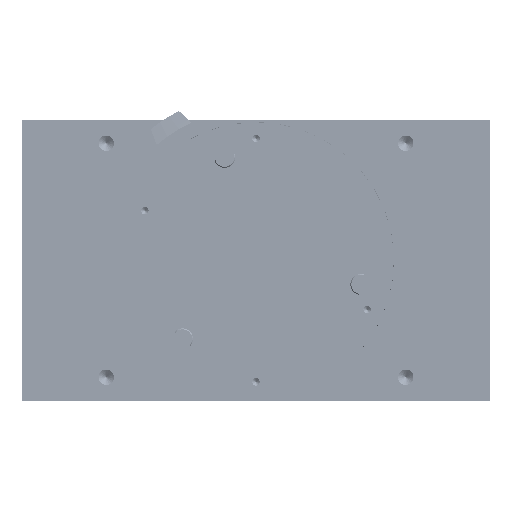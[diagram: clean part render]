
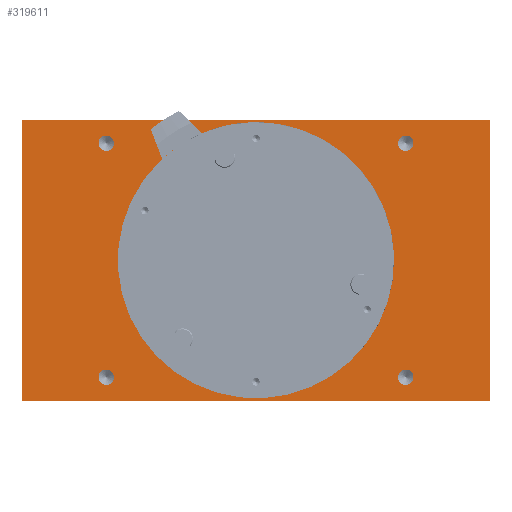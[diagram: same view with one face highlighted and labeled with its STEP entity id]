
A CAD part, left-side view. The second image highlights one B-rep face of the part: STEP entity #319611.
In plain terms, the highlighted planar face has unit normal (-1, 0, 0).
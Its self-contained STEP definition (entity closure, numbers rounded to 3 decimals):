
#40367 = CARTESIAN_POINT ( 'NONE',  ( 0., -50., 30. ) ) ;
#47087 = VERTEX_POINT ( 'NONE', #595805 ) ;
#48048 = VERTEX_POINT ( 'NONE', #113655 ) ;
#55258 = DIRECTION ( 'NONE',  ( 0., 0., -1. ) ) ;
#66231 = LINE ( 'NONE', #174885, #182446 ) ;
#70064 = AXIS2_PLACEMENT_3D ( 'NONE', #301113, #792182, #480158 ) ;
#71138 = DIRECTION ( 'NONE',  ( 0., 1., 0. ) ) ;
#80161 = VERTEX_POINT ( 'NONE', #40367 ) ;
#80585 = LINE ( 'NONE', #689943, #294056 ) ;
#85956 = CARTESIAN_POINT ( 'NONE',  ( 0., -32., -23.35 ) ) ;
#106033 = DIRECTION ( 'NONE',  ( 0., 0., 1. ) ) ;
#113655 = CARTESIAN_POINT ( 'NONE',  ( 0., 50., -30. ) ) ;
#118862 = VERTEX_POINT ( 'NONE', #159227 ) ;
#135031 = FACE_OUTER_BOUND ( 'NONE', #398976, .T. ) ;
#142356 = CARTESIAN_POINT ( 'NONE',  ( 0., 32., -25. ) ) ;
#144841 = EDGE_LOOP ( 'NONE', ( #680608 ) ) ;
#147715 = EDGE_CURVE ( 'NONE', #48048, #619695, #250286, .T. ) ;
#151471 = EDGE_CURVE ( 'NONE', #514553, #514553, #464996, .T. ) ;
#159119 = DIRECTION ( 'NONE',  ( 0., 0., -1. ) ) ;
#159227 = CARTESIAN_POINT ( 'NONE',  ( 0., -50., -30. ) ) ;
#174885 = CARTESIAN_POINT ( 'NONE',  ( 0., -50., 30. ) ) ;
#182446 = VECTOR ( 'NONE', #55258, 1000. ) ;
#189398 = EDGE_CURVE ( 'NONE', #369185, #369185, #259532, .T. ) ;
#204710 = DIRECTION ( 'NONE',  ( 0., 0., 1. ) ) ;
#204774 = DIRECTION ( 'NONE',  ( 0., 0., 1. ) ) ;
#207392 = DIRECTION ( 'NONE',  ( -1., 0., 0. ) ) ;
#213488 = PLANE ( 'NONE',  #527280 ) ;
#219536 = ORIENTED_EDGE ( 'NONE', *, *, #147715, .F. ) ;
#225697 = ORIENTED_EDGE ( 'NONE', *, *, #354381, .F. ) ;
#226284 = EDGE_CURVE ( 'NONE', #118862, #48048, #80585, .T. ) ;
#243290 = ORIENTED_EDGE ( 'NONE', *, *, #477249, .F. ) ;
#250286 = LINE ( 'NONE', #653529, #463580 ) ;
#259532 = CIRCLE ( 'NONE', #773552, 27.8 ) ;
#284475 = ORIENTED_EDGE ( 'NONE', *, *, #391379, .F. ) ;
#286296 = LINE ( 'NONE', #570221, #470691 ) ;
#291925 = EDGE_LOOP ( 'NONE', ( #243290 ) ) ;
#294056 = VECTOR ( 'NONE', #71138, 1000. ) ;
#299138 = EDGE_LOOP ( 'NONE', ( #784147 ) ) ;
#300264 = FACE_BOUND ( 'NONE', #718171, .T. ) ;
#301113 = CARTESIAN_POINT ( 'NONE',  ( 0., 32., 25. ) ) ;
#319611 = ADVANCED_FACE ( 'NONE', ( #630182, #300264, #775840, #610800, #445653, #135031 ), #213488, .F. ) ;
#342786 = EDGE_CURVE ( 'NONE', #621198, #621198, #677694, .T. ) ;
#354381 = EDGE_CURVE ( 'NONE', #80161, #118862, #66231, .T. ) ;
#358079 = CARTESIAN_POINT ( 'NONE',  ( 0., -32., 25. ) ) ;
#369185 = VERTEX_POINT ( 'NONE', #426455 ) ;
#391379 = EDGE_CURVE ( 'NONE', #619695, #80161, #286296, .T. ) ;
#398976 = EDGE_LOOP ( 'NONE', ( #284475, #219536, #736347, #225697 ) ) ;
#426455 = CARTESIAN_POINT ( 'NONE',  ( 0., 0., 27.8 ) ) ;
#434146 = ORIENTED_EDGE ( 'NONE', *, *, #563300, .F. ) ;
#445653 = FACE_BOUND ( 'NONE', #299138, .T. ) ;
#446983 = AXIS2_PLACEMENT_3D ( 'NONE', #358079, #724332, #474697 ) ;
#449603 = CARTESIAN_POINT ( 'NONE',  ( 0., 32., 26.65 ) ) ;
#460066 = AXIS2_PLACEMENT_3D ( 'NONE', #576336, #207392, #204710 ) ;
#463580 = VECTOR ( 'NONE', #593781, 1000. ) ;
#464996 = CIRCLE ( 'NONE', #657517, 1.65 ) ;
#470691 = VECTOR ( 'NONE', #632613, 1000. ) ;
#472841 = CARTESIAN_POINT ( 'NONE',  ( 0., 32., -23.35 ) ) ;
#474697 = DIRECTION ( 'NONE',  ( 0., 0., 1. ) ) ;
#477249 = EDGE_CURVE ( 'NONE', #727657, #727657, #604657, .T. ) ;
#477751 = DIRECTION ( 'NONE',  ( -1., 0., 0. ) ) ;
#480158 = DIRECTION ( 'NONE',  ( 0., 0., 1. ) ) ;
#514553 = VERTEX_POINT ( 'NONE', #472841 ) ;
#527280 = AXIS2_PLACEMENT_3D ( 'NONE', #772382, #777763, #159119 ) ;
#528411 = ORIENTED_EDGE ( 'NONE', *, *, #342786, .F. ) ;
#563300 = EDGE_CURVE ( 'NONE', #47087, #47087, #658762, .T. ) ;
#568418 = DIRECTION ( 'NONE',  ( -1., 0., 0. ) ) ;
#570221 = CARTESIAN_POINT ( 'NONE',  ( 0., 50., 30. ) ) ;
#576336 = CARTESIAN_POINT ( 'NONE',  ( 0., -32., -25. ) ) ;
#593781 = DIRECTION ( 'NONE',  ( 0., 0., 1. ) ) ;
#595805 = CARTESIAN_POINT ( 'NONE',  ( 0., -32., 26.65 ) ) ;
#604657 = CIRCLE ( 'NONE', #460066, 1.65 ) ;
#610800 = FACE_BOUND ( 'NONE', #144841, .T. ) ;
#619695 = VERTEX_POINT ( 'NONE', #681366 ) ;
#621198 = VERTEX_POINT ( 'NONE', #449603 ) ;
#630182 = FACE_BOUND ( 'NONE', #724585, .T. ) ;
#632613 = DIRECTION ( 'NONE',  ( 0., -1., 0. ) ) ;
#653529 = CARTESIAN_POINT ( 'NONE',  ( 0., 50., 30. ) ) ;
#657517 = AXIS2_PLACEMENT_3D ( 'NONE', #142356, #568418, #204774 ) ;
#658762 = CIRCLE ( 'NONE', #446983, 1.65 ) ;
#677694 = CIRCLE ( 'NONE', #70064, 1.65 ) ;
#680608 = ORIENTED_EDGE ( 'NONE', *, *, #151471, .F. ) ;
#681366 = CARTESIAN_POINT ( 'NONE',  ( 0., 50., 30. ) ) ;
#689943 = CARTESIAN_POINT ( 'NONE',  ( 0., 50., -30. ) ) ;
#718171 = EDGE_LOOP ( 'NONE', ( #528411 ) ) ;
#724332 = DIRECTION ( 'NONE',  ( -1., 0., 0. ) ) ;
#724585 = EDGE_LOOP ( 'NONE', ( #434146 ) ) ;
#727657 = VERTEX_POINT ( 'NONE', #85956 ) ;
#736347 = ORIENTED_EDGE ( 'NONE', *, *, #226284, .F. ) ;
#772382 = CARTESIAN_POINT ( 'NONE',  ( 0., 0., 0. ) ) ;
#773552 = AXIS2_PLACEMENT_3D ( 'NONE', #787083, #477751, #106033 ) ;
#775840 = FACE_BOUND ( 'NONE', #291925, .T. ) ;
#777763 = DIRECTION ( 'NONE',  ( 1., 0., 0. ) ) ;
#784147 = ORIENTED_EDGE ( 'NONE', *, *, #189398, .F. ) ;
#787083 = CARTESIAN_POINT ( 'NONE',  ( 0., 0., 0. ) ) ;
#792182 = DIRECTION ( 'NONE',  ( -1., 0., 0. ) ) ;
